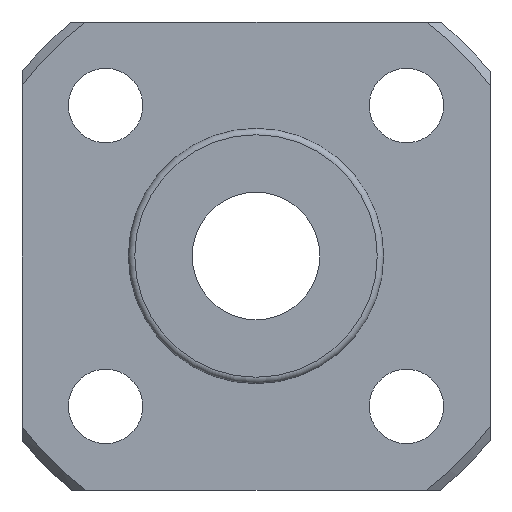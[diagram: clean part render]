
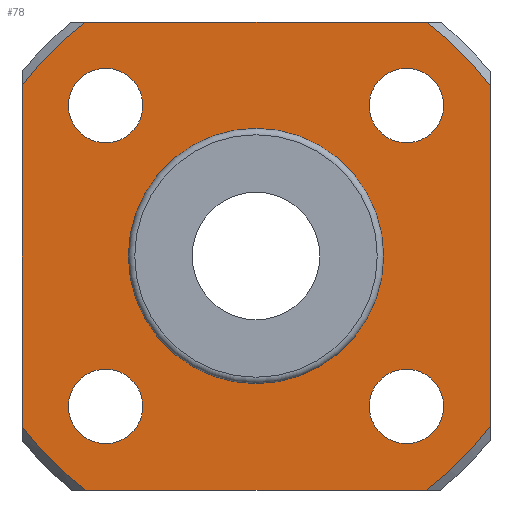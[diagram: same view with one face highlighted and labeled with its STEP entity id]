
A CAD part, left-side view. The second image highlights one B-rep face of the part: STEP entity #78.
In plain terms, the highlighted planar face has unit normal (-1, 0, 0).
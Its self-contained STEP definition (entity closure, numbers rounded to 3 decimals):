
#78=ADVANCED_FACE('',(#120,#121,#122,#123,#124,#125),#126,.T.);
#120=FACE_BOUND('',#220,.T.);
#121=FACE_BOUND('',#221,.T.);
#122=FACE_OUTER_BOUND('',#222,.T.);
#123=FACE_BOUND('',#223,.T.);
#124=FACE_BOUND('',#224,.T.);
#125=FACE_BOUND('',#225,.T.);
#126=PLANE('',#226);
#220=EDGE_LOOP('',(#329));
#221=EDGE_LOOP('',(#330));
#222=EDGE_LOOP('',(#331,#332,#333,#334,#335,#336,#337,#338));
#223=EDGE_LOOP('',(#339));
#224=EDGE_LOOP('',(#340));
#225=EDGE_LOOP('',(#341));
#226=AXIS2_PLACEMENT_3D('',#342,#343,#344);
#329=ORIENTED_EDGE('',*,*,#569,.T.);
#330=ORIENTED_EDGE('',*,*,#570,.T.);
#331=ORIENTED_EDGE('',*,*,#571,.T.);
#332=ORIENTED_EDGE('',*,*,#567,.F.);
#333=ORIENTED_EDGE('',*,*,#572,.T.);
#334=ORIENTED_EDGE('',*,*,#573,.F.);
#335=ORIENTED_EDGE('',*,*,#574,.T.);
#336=ORIENTED_EDGE('',*,*,#575,.F.);
#337=ORIENTED_EDGE('',*,*,#576,.T.);
#338=ORIENTED_EDGE('',*,*,#577,.F.);
#339=ORIENTED_EDGE('',*,*,#562,.T.);
#340=ORIENTED_EDGE('',*,*,#578,.T.);
#341=ORIENTED_EDGE('',*,*,#579,.T.);
#342=CARTESIAN_POINT('',(-5.0,9.675,0.));
#343=DIRECTION('',(-1.0,0.0,0.));
#344=DIRECTION('',(0.,0.0,1.0));
#562=EDGE_CURVE('',#633,#633,#634,.T.);
#567=EDGE_CURVE('',#642,#637,#644,.T.);
#569=EDGE_CURVE('',#647,#647,#648,.F.);
#570=EDGE_CURVE('',#649,#649,#650,.F.);
#571=EDGE_CURVE('',#651,#637,#652,.T.);
#572=EDGE_CURVE('',#642,#653,#654,.T.);
#573=EDGE_CURVE('',#655,#653,#656,.T.);
#574=EDGE_CURVE('',#655,#657,#658,.T.);
#575=EDGE_CURVE('',#659,#657,#660,.T.);
#576=EDGE_CURVE('',#659,#661,#662,.T.);
#577=EDGE_CURVE('',#651,#661,#663,.T.);
#578=EDGE_CURVE('',#664,#664,#665,.F.);
#579=EDGE_CURVE('',#666,#666,#667,.F.);
#633=VERTEX_POINT('',#759);
#634=CIRCLE('',#760,5.75);
#637=VERTEX_POINT('',#763);
#642=VERTEX_POINT('',#777);
#644=CIRCLE('',#788,13.6);
#647=VERTEX_POINT('',#791);
#648=CIRCLE('',#792,1.75);
#649=VERTEX_POINT('',#793);
#650=CIRCLE('',#794,1.75);
#651=VERTEX_POINT('',#795);
#652=LINE('',#796,#797);
#653=VERTEX_POINT('',#798);
#654=LINE('',#799,#800);
#655=VERTEX_POINT('',#801);
#656=CIRCLE('',#802,13.6);
#657=VERTEX_POINT('',#803);
#658=LINE('',#804,#805);
#659=VERTEX_POINT('',#806);
#660=CIRCLE('',#807,13.6);
#661=VERTEX_POINT('',#808);
#662=LINE('',#809,#810);
#663=CIRCLE('',#811,13.6);
#664=VERTEX_POINT('',#812);
#665=CIRCLE('',#813,1.75);
#666=VERTEX_POINT('',#814);
#667=CIRCLE('',#815,1.75);
#759=CARTESIAN_POINT('',(-5.0,5.75,0.));
#760=AXIS2_PLACEMENT_3D('',#1045,#1046,#1047);
#763=CARTESIAN_POINT('',(-5.0,-11.0,7.997));
#777=CARTESIAN_POINT('',(-5.0,-7.997,11.0));
#788=AXIS2_PLACEMENT_3D('',#1054,#1055,#1056);
#791=CARTESIAN_POINT('',(-5.0,-7.071,-5.321));
#792=AXIS2_PLACEMENT_3D('',#1060,#1061,#1062);
#793=CARTESIAN_POINT('',(-5.0,7.071,8.821));
#794=AXIS2_PLACEMENT_3D('',#1063,#1064,#1065);
#795=CARTESIAN_POINT('',(-5.0,-11.0,-7.997));
#796=CARTESIAN_POINT('',(-5.0,-11.0,6.179));
#797=VECTOR('',#1066,1.0);
#798=CARTESIAN_POINT('',(-5.0,7.997,11.0));
#799=CARTESIAN_POINT('',(-5.0,10.338,11.0));
#800=VECTOR('',#1067,1.0);
#801=CARTESIAN_POINT('',(-5.0,11.0,7.997));
#802=AXIS2_PLACEMENT_3D('',#1068,#1069,#1070);
#803=CARTESIAN_POINT('',(-5.0,11.0,-7.997));
#804=CARTESIAN_POINT('',(-5.0,11.0,6.179));
#805=VECTOR('',#1071,1.0);
#806=CARTESIAN_POINT('',(-5.0,7.997,-11.0));
#807=AXIS2_PLACEMENT_3D('',#1072,#1073,#1074);
#808=CARTESIAN_POINT('',(-5.0,-7.997,-11.0));
#809=CARTESIAN_POINT('',(-5.0,10.338,-11.0));
#810=VECTOR('',#1075,1.0);
#811=AXIS2_PLACEMENT_3D('',#1076,#1077,#1078);
#812=CARTESIAN_POINT('',(-5.0,-7.071,8.821));
#813=AXIS2_PLACEMENT_3D('',#1079,#1080,#1081);
#814=CARTESIAN_POINT('',(-5.0,7.071,-5.321));
#815=AXIS2_PLACEMENT_3D('',#1082,#1083,#1084);
#1045=CARTESIAN_POINT('',(-5.0,0.0,0.));
#1046=DIRECTION('',(1.0,0.0,0.));
#1047=DIRECTION('',(0.0,1.0,0.0));
#1054=CARTESIAN_POINT('',(-5.0,0.0,0.));
#1055=DIRECTION('',(1.0,0.0,0.));
#1056=DIRECTION('',(0.0,1.0,0.0));
#1060=CARTESIAN_POINT('',(-5.0,-7.071,-7.071));
#1061=DIRECTION('',(-1.0,0.0,0.));
#1062=DIRECTION('',(0.,0.0,1.0));
#1063=CARTESIAN_POINT('',(-5.0,7.071,7.071));
#1064=DIRECTION('',(-1.0,0.0,0.));
#1065=DIRECTION('',(0.,0.0,1.0));
#1066=DIRECTION('',(0.,0.0,1.0));
#1067=DIRECTION('',(0.0,1.0,0.0));
#1068=CARTESIAN_POINT('',(-5.0,0.0,0.));
#1069=DIRECTION('',(1.0,0.0,0.));
#1070=DIRECTION('',(0.0,1.0,0.0));
#1071=DIRECTION('',(0.,0.0,-1.0));
#1072=CARTESIAN_POINT('',(-5.0,0.0,0.));
#1073=DIRECTION('',(1.0,0.0,0.));
#1074=DIRECTION('',(0.0,1.0,0.0));
#1075=DIRECTION('',(0.0,-1.0,0.0));
#1076=CARTESIAN_POINT('',(-5.0,0.0,0.));
#1077=DIRECTION('',(1.0,0.0,0.));
#1078=DIRECTION('',(0.0,1.0,0.0));
#1079=CARTESIAN_POINT('',(-5.0,-7.071,7.071));
#1080=DIRECTION('',(-1.0,0.0,0.));
#1081=DIRECTION('',(0.,0.0,1.0));
#1082=CARTESIAN_POINT('',(-5.0,7.071,-7.071));
#1083=DIRECTION('',(-1.0,0.0,0.));
#1084=DIRECTION('',(0.,0.0,1.0));
